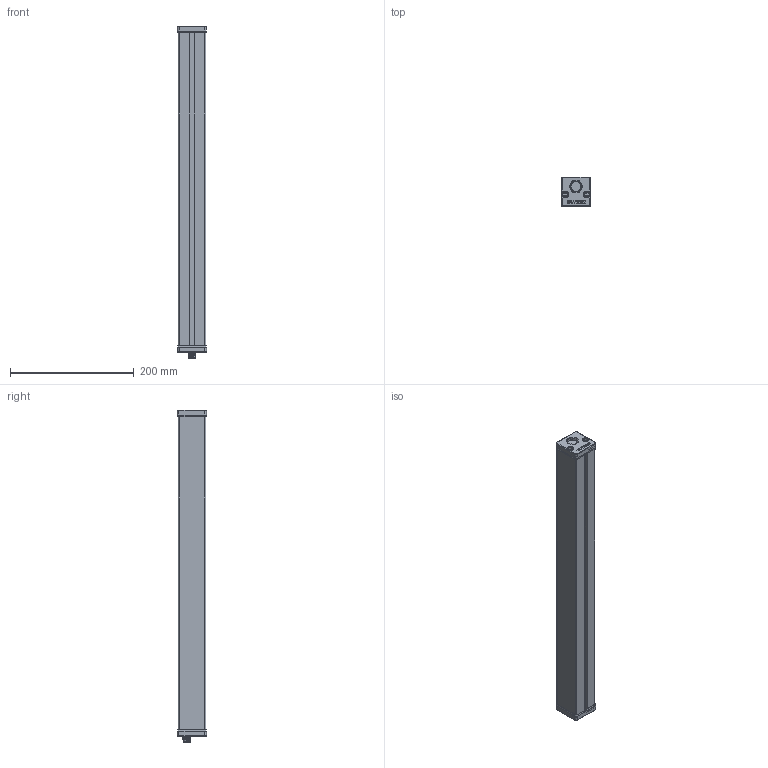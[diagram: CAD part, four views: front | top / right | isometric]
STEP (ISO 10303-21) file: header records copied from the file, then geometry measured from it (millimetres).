
FILE_DESCRIPTION (( 'STEP AP214' ), '1' );
FILE_NAME ('BLBAR 20.STEP', '2012-02-13T13:37:35', ( ' ' ), ( '' ), 'SwSTEP 2.0', 'SolidWorks 2009', '' );
FILE_SCHEMA (( 'AUTOMOTIVE_DESIGN' ));
Length unit declared in the file: millimetre
Products named in the file (1): BLBAR 20
Bounding box: 47.2 x 47 x 537.1 mm (x, y, z)
Volume: 278178.4 mm3; surface area: 273096.9 mm2
Topology: 1 solids, 3 shells, 599 faces, 1564 edges, 1007 vertices
Faces by surface type: plane 311, cylinder 156, bspline 66, torus 38, cone 20, sphere 8
Entity records: 34060 total; most frequent: CARTESIAN_POINT 13050, ORIENTED_EDGE 3096, DIRECTION 2810, EDGE_CURVE 1548, VERTEX_POINT 999, VECTOR 950, LINE 950, AXIS2_PLACEMENT_3D 930
